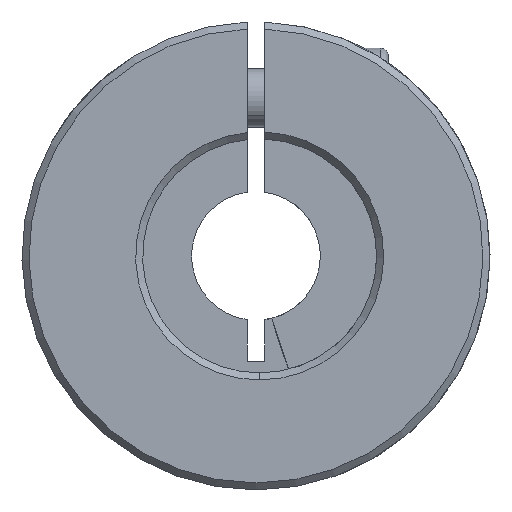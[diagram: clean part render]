
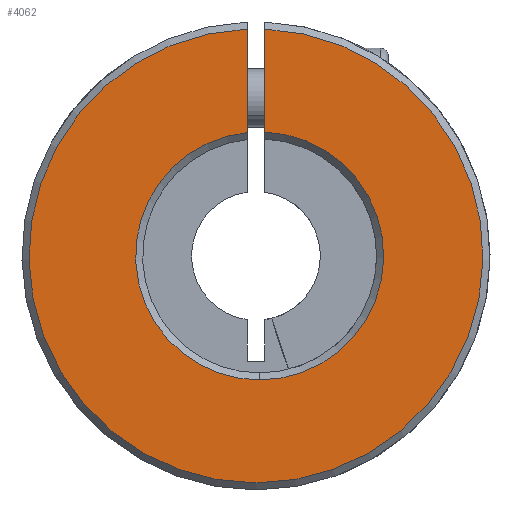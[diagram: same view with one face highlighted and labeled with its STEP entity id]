
A CAD part, front view. The second image highlights one B-rep face of the part: STEP entity #4062.
In plain terms, the highlighted planar face has unit normal (0, -1, 0).
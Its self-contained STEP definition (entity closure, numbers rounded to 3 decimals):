
#222 = VECTOR ( 'NONE', #5609, 1000. ) ;
#655 = DIRECTION ( 'NONE',  ( 0., 1., 0. ) ) ;
#782 = CARTESIAN_POINT ( 'NONE',  ( -0.75, -30., 10.546 ) ) ;
#802 = AXIS2_PLACEMENT_3D ( 'NONE', #4669, #1845, #2263 ) ;
#834 = CARTESIAN_POINT ( 'NONE',  ( 0.75, -30., 19.385 ) ) ;
#929 = ORIENTED_EDGE ( 'NONE', *, *, #4513, .T. ) ;
#965 = VERTEX_POINT ( 'NONE', #2633 ) ;
#980 = VECTOR ( 'NONE', #4746, 1000. ) ;
#1110 = CARTESIAN_POINT ( 'NONE',  ( 0.314, -30., 0. ) ) ;
#1128 = LINE ( 'NONE', #2506, #980 ) ;
#1242 = ORIENTED_EDGE ( 'NONE', *, *, #3903, .T. ) ;
#1282 = VERTEX_POINT ( 'NONE', #782 ) ;
#1311 = CIRCLE ( 'NONE', #5489, 10.6 ) ;
#1373 = CIRCLE ( 'NONE', #4486, 19.4 ) ;
#1428 = EDGE_LOOP ( 'NONE', ( #5499, #3781, #5907, #929, #1242 ) ) ;
#1566 = VERTEX_POINT ( 'NONE', #4906 ) ;
#1741 = DIRECTION ( 'NONE',  ( 0., 0., 1. ) ) ;
#1845 = DIRECTION ( 'NONE',  ( 0., 1., 0. ) ) ;
#2094 = DIRECTION ( 'NONE',  ( 0., -1., 0. ) ) ;
#2133 = CARTESIAN_POINT ( 'NONE',  ( 0.314, -30., 0. ) ) ;
#2163 = DIRECTION ( 'NONE',  ( 0., 1., 0. ) ) ;
#2263 = DIRECTION ( 'NONE',  ( 0., 0., 1. ) ) ;
#2506 = CARTESIAN_POINT ( 'NONE',  ( 0.75, -30., -9. ) ) ;
#2532 = CARTESIAN_POINT ( 'NONE',  ( 0., -30., 0. ) ) ;
#2540 = CARTESIAN_POINT ( 'NONE',  ( -0.75, -30., -9. ) ) ;
#2633 = CARTESIAN_POINT ( 'NONE',  ( 0.75, -30., 10.591 ) ) ;
#2777 = PLANE ( 'NONE',  #802 ) ;
#2806 = FACE_OUTER_BOUND ( 'NONE', #1428, .T. ) ;
#2915 = AXIS2_PLACEMENT_3D ( 'NONE', #2133, #2163, #1741 ) ;
#2979 = VERTEX_POINT ( 'NONE', #834 ) ;
#3363 = EDGE_CURVE ( 'NONE', #2979, #965, #1128, .T. ) ;
#3389 = EDGE_CURVE ( 'NONE', #1566, #1282, #4767, .T. ) ;
#3519 = CARTESIAN_POINT ( 'NONE',  ( -0.75, -30., 19.385 ) ) ;
#3781 = ORIENTED_EDGE ( 'NONE', *, *, #5778, .T. ) ;
#3903 = EDGE_CURVE ( 'NONE', #3965, #2979, #1373, .T. ) ;
#3965 = VERTEX_POINT ( 'NONE', #3519 ) ;
#4047 = DIRECTION ( 'NONE',  ( 0., 0., 1. ) ) ;
#4062 = ADVANCED_FACE ( 'NONE', ( #2806 ), #2777, .F. ) ;
#4305 = DIRECTION ( 'NONE',  ( 0., 0., 1. ) ) ;
#4486 = AXIS2_PLACEMENT_3D ( 'NONE', #2532, #2094, #4047 ) ;
#4513 = EDGE_CURVE ( 'NONE', #1282, #3965, #4663, .T. ) ;
#4663 = LINE ( 'NONE', #2540, #222 ) ;
#4669 = CARTESIAN_POINT ( 'NONE',  ( 0., -30., 0. ) ) ;
#4746 = DIRECTION ( 'NONE',  ( 0., 0., -1. ) ) ;
#4767 = CIRCLE ( 'NONE', #2915, 10.6 ) ;
#4906 = CARTESIAN_POINT ( 'NONE',  ( 0.314, -30., -10.6 ) ) ;
#5489 = AXIS2_PLACEMENT_3D ( 'NONE', #1110, #655, #4305 ) ;
#5499 = ORIENTED_EDGE ( 'NONE', *, *, #3363, .T. ) ;
#5609 = DIRECTION ( 'NONE',  ( 0., 0., 1. ) ) ;
#5778 = EDGE_CURVE ( 'NONE', #965, #1566, #1311, .T. ) ;
#5907 = ORIENTED_EDGE ( 'NONE', *, *, #3389, .T. ) ;
